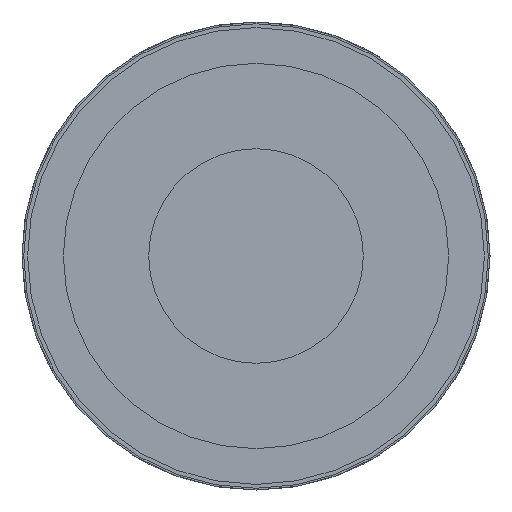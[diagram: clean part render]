
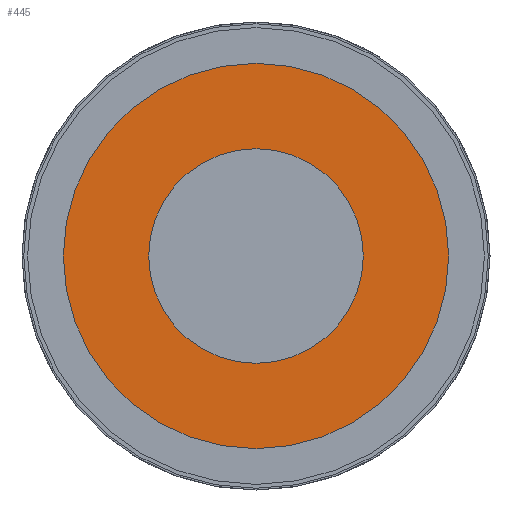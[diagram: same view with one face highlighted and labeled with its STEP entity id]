
A CAD part, left-side view. The second image highlights one B-rep face of the part: STEP entity #445.
In plain terms, the highlighted planar face has unit normal (-1, 0, 0).
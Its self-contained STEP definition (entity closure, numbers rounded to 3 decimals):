
#95 = CIRCLE ( 'NONE', #3372, 3.05 ) ;
#206 = DIRECTION ( 'NONE',  ( -1., 0., 0. ) ) ;
#222 = EDGE_LOOP ( 'NONE', ( #2947 ) ) ;
#445 = ADVANCED_FACE ( 'NONE', ( #826, #3436 ), #1127, .F. ) ;
#468 = CARTESIAN_POINT ( 'NONE',  ( -66., 0., 0. ) ) ;
#826 = FACE_BOUND ( 'NONE', #3303, .T. ) ;
#853 = DIRECTION ( 'NONE',  ( 1., 0., 0. ) ) ;
#987 = CARTESIAN_POINT ( 'NONE',  ( -66., 0., 0. ) ) ;
#1127 = PLANE ( 'NONE',  #3210 ) ;
#1274 = DIRECTION ( 'NONE',  ( 0., 0., 1. ) ) ;
#1702 = CARTESIAN_POINT ( 'NONE',  ( -66., 0., 0. ) ) ;
#1771 = DIRECTION ( 'NONE',  ( 0., 0., 1. ) ) ;
#1846 = VERTEX_POINT ( 'NONE', #2882 ) ;
#2117 = VERTEX_POINT ( 'NONE', #3411 ) ;
#2126 = EDGE_CURVE ( 'NONE', #2117, #2117, #95, .T. ) ;
#2375 = DIRECTION ( 'NONE',  ( -1., 0., 0. ) ) ;
#2590 = ORIENTED_EDGE ( 'NONE', *, *, #2126, .F. ) ;
#2702 = EDGE_CURVE ( 'NONE', #1846, #1846, #3424, .T. ) ;
#2759 = DIRECTION ( 'NONE',  ( 0., 0., -1. ) ) ;
#2882 = CARTESIAN_POINT ( 'NONE',  ( -66., 0., 5.475 ) ) ;
#2947 = ORIENTED_EDGE ( 'NONE', *, *, #2702, .T. ) ;
#3166 = AXIS2_PLACEMENT_3D ( 'NONE', #987, #206, #1771 ) ;
#3210 = AXIS2_PLACEMENT_3D ( 'NONE', #1702, #853, #2759 ) ;
#3303 = EDGE_LOOP ( 'NONE', ( #2590 ) ) ;
#3372 = AXIS2_PLACEMENT_3D ( 'NONE', #468, #2375, #1274 ) ;
#3411 = CARTESIAN_POINT ( 'NONE',  ( -66., 0., 3.05 ) ) ;
#3424 = CIRCLE ( 'NONE', #3166, 5.475 ) ;
#3436 = FACE_OUTER_BOUND ( 'NONE', #222, .T. ) ;
